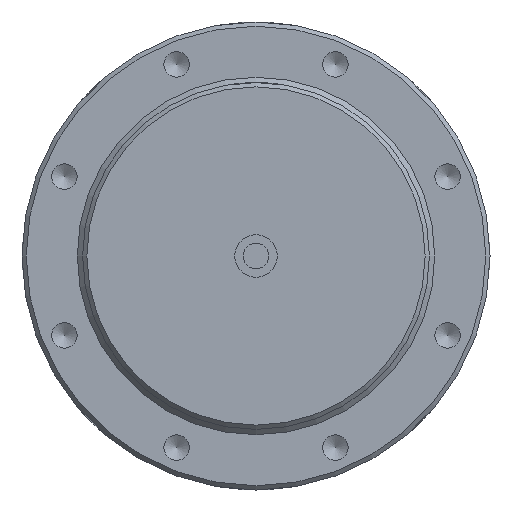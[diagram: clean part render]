
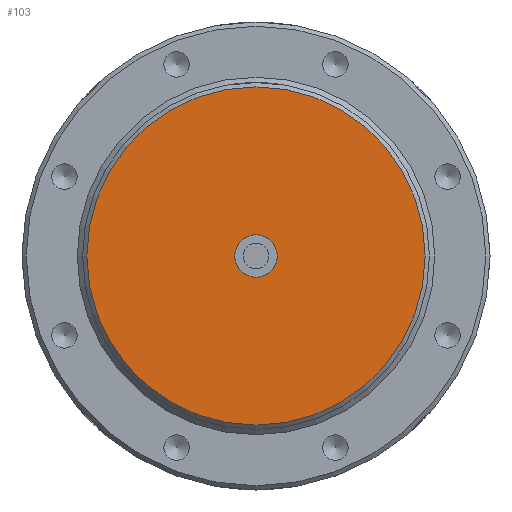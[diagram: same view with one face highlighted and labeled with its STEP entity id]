
A CAD part, left-side view. The second image highlights one B-rep face of the part: STEP entity #103.
In plain terms, the highlighted planar face has unit normal (-1, 0, 0).
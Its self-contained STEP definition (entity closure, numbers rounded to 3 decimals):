
#103 = ADVANCED_FACE( '', ( #231, #232 ), #233, .T. );
#231 = FACE_OUTER_BOUND( '', #434, .T. );
#232 = FACE_BOUND( '', #435, .T. );
#233 = PLANE( '', #436 );
#434 = EDGE_LOOP( '', ( #693 ) );
#435 = EDGE_LOOP( '', ( #694 ) );
#436 = AXIS2_PLACEMENT_3D( '', #695, #696, #697 );
#693 = ORIENTED_EDGE( '', *, *, #915, .T. );
#694 = ORIENTED_EDGE( '', *, *, #916, .F. );
#695 = CARTESIAN_POINT( '', ( 0., 0., 10. ) );
#696 = DIRECTION( '', ( -1., 0., 0. ) );
#697 = DIRECTION( '', ( 0., 0., 1. ) );
#915 = EDGE_CURVE( '', #1014, #1014, #1015, .T. );
#916 = EDGE_CURVE( '', #1016, #1016, #1017, .T. );
#1014 = VERTEX_POINT( '', #1886 );
#1015 = CIRCLE( '', #1887, 79.5 );
#1016 = VERTEX_POINT( '', #1888 );
#1017 = CIRCLE( '', #1889, 10. );
#1886 = CARTESIAN_POINT( '', ( 0., 0., 79.5 ) );
#1887 = AXIS2_PLACEMENT_3D( '', #2014, #2015, #2016 );
#1888 = CARTESIAN_POINT( '', ( 0., 0., 10. ) );
#1889 = AXIS2_PLACEMENT_3D( '', #2017, #2018, #2019 );
#2014 = CARTESIAN_POINT( '', ( 0., 0., 0. ) );
#2015 = DIRECTION( '', ( -1., 0., 0. ) );
#2016 = DIRECTION( '', ( 0., 0., 1. ) );
#2017 = CARTESIAN_POINT( '', ( 0., 0., 0. ) );
#2018 = DIRECTION( '', ( -1., 0., 0. ) );
#2019 = DIRECTION( '', ( 0., 0., 1. ) );
